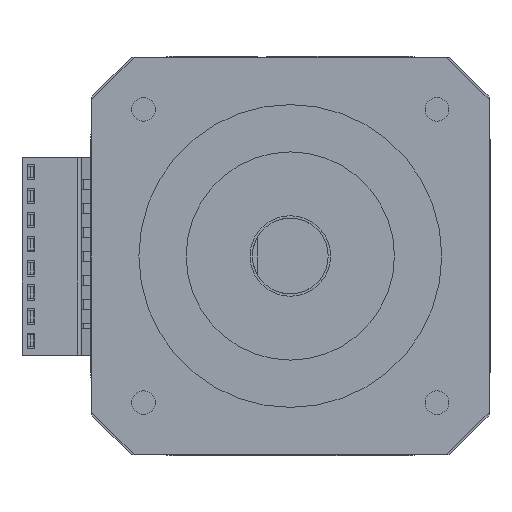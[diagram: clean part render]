
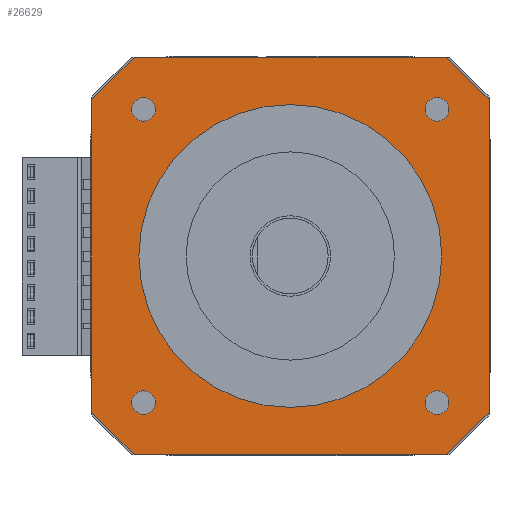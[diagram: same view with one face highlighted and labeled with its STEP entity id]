
A CAD part, front view. The second image highlights one B-rep face of the part: STEP entity #26629.
In plain terms, the highlighted planar face has unit normal (0, -1, 0).
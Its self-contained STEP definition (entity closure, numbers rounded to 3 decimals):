
#1387=DIRECTION('',(0.707,0.,-0.707));
#1388=VECTOR('',#1387,6.364);
#1389=CARTESIAN_POINT('',(37.5,11.,0.));
#1390=LINE('',#1389,#1388);
#1391=DIRECTION('',(0.,0.,-1.));
#1392=VECTOR('',#1391,33.);
#1393=CARTESIAN_POINT('',(42.,11.,-4.5));
#1394=LINE('',#1393,#1392);
#1395=DIRECTION('',(-0.707,0.,-0.707));
#1396=VECTOR('',#1395,6.364);
#1397=CARTESIAN_POINT('',(42.,11.,-37.5));
#1398=LINE('',#1397,#1396);
#1399=DIRECTION('',(-0.707,0.,0.707));
#1400=VECTOR('',#1399,6.364);
#1401=CARTESIAN_POINT('',(4.5,11.,-42.));
#1402=LINE('',#1401,#1400);
#1403=DIRECTION('',(0.707,0.,0.707));
#1404=VECTOR('',#1403,6.364);
#1405=CARTESIAN_POINT('',(0.,11.,-4.5));
#1406=LINE('',#1405,#1404);
#1407=CARTESIAN_POINT('',(5.5,11.,-36.5));
#1408=DIRECTION('',(0.,-1.,0.));
#1409=DIRECTION('',(-1.,0.,0.));
#1410=AXIS2_PLACEMENT_3D('',#1407,#1408,#1409);
#1412=CARTESIAN_POINT('',(5.5,11.,-36.5));
#1413=DIRECTION('',(0.,-1.,0.));
#1414=DIRECTION('',(1.,0.,0.));
#1415=AXIS2_PLACEMENT_3D('',#1412,#1413,#1414);
#1417=CARTESIAN_POINT('',(36.5,11.,-36.5));
#1418=DIRECTION('',(0.,-1.,0.));
#1419=DIRECTION('',(-1.,0.,0.));
#1420=AXIS2_PLACEMENT_3D('',#1417,#1418,#1419);
#1422=CARTESIAN_POINT('',(36.5,11.,-36.5));
#1423=DIRECTION('',(0.,-1.,0.));
#1424=DIRECTION('',(1.,0.,0.));
#1425=AXIS2_PLACEMENT_3D('',#1422,#1423,#1424);
#1427=CARTESIAN_POINT('',(5.5,11.,-5.5));
#1428=DIRECTION('',(0.,-1.,0.));
#1429=DIRECTION('',(-1.,0.,0.));
#1430=AXIS2_PLACEMENT_3D('',#1427,#1428,#1429);
#1432=CARTESIAN_POINT('',(5.5,11.,-5.5));
#1433=DIRECTION('',(0.,-1.,0.));
#1434=DIRECTION('',(1.,0.,0.));
#1435=AXIS2_PLACEMENT_3D('',#1432,#1433,#1434);
#1437=CARTESIAN_POINT('',(36.5,11.,-5.5));
#1438=DIRECTION('',(0.,-1.,0.));
#1439=DIRECTION('',(-1.,0.,0.));
#1440=AXIS2_PLACEMENT_3D('',#1437,#1438,#1439);
#1442=CARTESIAN_POINT('',(36.5,11.,-5.5));
#1443=DIRECTION('',(0.,-1.,0.));
#1444=DIRECTION('',(1.,0.,0.));
#1445=AXIS2_PLACEMENT_3D('',#1442,#1443,#1444);
#1447=CARTESIAN_POINT('',(21.,11.,-21.));
#1448=DIRECTION('',(0.,-1.,0.));
#1449=DIRECTION('',(-1.,0.,0.));
#1450=AXIS2_PLACEMENT_3D('',#1447,#1448,#1449);
#1452=CARTESIAN_POINT('',(21.,11.,-21.));
#1453=DIRECTION('',(0.,-1.,0.));
#1454=DIRECTION('',(1.,0.,0.));
#1455=AXIS2_PLACEMENT_3D('',#1452,#1453,#1454);
#1465=DIRECTION('',(-1.,0.,0.));
#1466=VECTOR('',#1465,33.);
#1467=CARTESIAN_POINT('',(37.5,11.,0.));
#1468=LINE('',#1467,#1466);
#7335=DIRECTION('',(0.,0.,-1.));
#7336=VECTOR('',#7335,33.);
#7337=CARTESIAN_POINT('',(0.,11.,-4.5));
#7338=LINE('',#7337,#7336);
#7355=DIRECTION('',(1.,0.,0.));
#7356=VECTOR('',#7355,33.);
#7357=CARTESIAN_POINT('',(4.5,11.,-42.));
#7358=LINE('',#7357,#7356);
#22332=CARTESIAN_POINT('',(42.,11.,-37.5));
#22334=VERTEX_POINT('',#22332);
#22340=CARTESIAN_POINT('',(42.,11.,-4.5));
#22341=VERTEX_POINT('',#22340);
#22342=CARTESIAN_POINT('',(37.5,11.,0.));
#22344=VERTEX_POINT('',#22342);
#22350=CARTESIAN_POINT('',(4.5,11.,0.));
#22351=VERTEX_POINT('',#22350);
#22354=CARTESIAN_POINT('',(0.,11.,-4.5));
#22355=VERTEX_POINT('',#22354);
#22362=CARTESIAN_POINT('',(0.,11.,-37.5));
#22363=VERTEX_POINT('',#22362);
#22366=CARTESIAN_POINT('',(4.5,11.,-42.));
#22367=VERTEX_POINT('',#22366);
#22374=CARTESIAN_POINT('',(37.5,11.,-42.));
#22375=VERTEX_POINT('',#22374);
#22376=CARTESIAN_POINT('',(6.75,11.,-36.5));
#22377=VERTEX_POINT('',#22376);
#22378=CARTESIAN_POINT('',(4.25,11.,-36.5));
#22379=VERTEX_POINT('',#22378);
#22380=CARTESIAN_POINT('',(37.75,11.,-36.5));
#22381=VERTEX_POINT('',#22380);
#22382=CARTESIAN_POINT('',(35.25,11.,-36.5));
#22383=VERTEX_POINT('',#22382);
#22384=CARTESIAN_POINT('',(6.75,11.,-5.5));
#22385=VERTEX_POINT('',#22384);
#22386=CARTESIAN_POINT('',(4.25,11.,-5.5));
#22387=VERTEX_POINT('',#22386);
#22388=CARTESIAN_POINT('',(37.75,11.,-5.5));
#22389=VERTEX_POINT('',#22388);
#22390=CARTESIAN_POINT('',(35.25,11.,-5.5));
#22391=VERTEX_POINT('',#22390);
#22393=CARTESIAN_POINT('',(37.,11.,-21.));
#22395=VERTEX_POINT('',#22393);
#22398=CARTESIAN_POINT('',(5.,11.,-21.));
#22399=VERTEX_POINT('',#22398);
#26578=CARTESIAN_POINT('',(21.,11.,-21.));
#26579=DIRECTION('',(0.,1.,0.));
#26580=DIRECTION('',(1.,0.,0.));
#26581=AXIS2_PLACEMENT_3D('',#26578,#26579,#26580);
#26582=PLANE('',#26581);
#26584=ORIENTED_EDGE('',*,*,#26583,.F.);
#26586=ORIENTED_EDGE('',*,*,#26585,.T.);
#26588=ORIENTED_EDGE('',*,*,#26587,.T.);
#26590=ORIENTED_EDGE('',*,*,#26589,.T.);
#26592=ORIENTED_EDGE('',*,*,#26591,.F.);
#26594=ORIENTED_EDGE('',*,*,#26593,.T.);
#26596=ORIENTED_EDGE('',*,*,#26595,.F.);
#26598=ORIENTED_EDGE('',*,*,#26597,.T.);
#26599=EDGE_LOOP('',(#26584,#26586,#26588,#26590,#26592,#26594,#26596,#26598));
#26600=FACE_OUTER_BOUND('',#26599,.F.);
#26602=ORIENTED_EDGE('',*,*,#26601,.T.);
#26604=ORIENTED_EDGE('',*,*,#26603,.T.);
#26605=EDGE_LOOP('',(#26602,#26604));
#26606=FACE_BOUND('',#26605,.F.);
#26608=ORIENTED_EDGE('',*,*,#26607,.T.);
#26610=ORIENTED_EDGE('',*,*,#26609,.T.);
#26611=EDGE_LOOP('',(#26608,#26610));
#26612=FACE_BOUND('',#26611,.F.);
#26614=ORIENTED_EDGE('',*,*,#26613,.T.);
#26616=ORIENTED_EDGE('',*,*,#26615,.T.);
#26617=EDGE_LOOP('',(#26614,#26616));
#26618=FACE_BOUND('',#26617,.F.);
#26620=ORIENTED_EDGE('',*,*,#26619,.T.);
#26622=ORIENTED_EDGE('',*,*,#26621,.T.);
#26623=EDGE_LOOP('',(#26620,#26622));
#26624=FACE_BOUND('',#26623,.F.);
#26625=ORIENTED_EDGE('',*,*,#26543,.T.);
#26626=ORIENTED_EDGE('',*,*,#26565,.T.);
#26627=EDGE_LOOP('',(#26625,#26626));
#26628=FACE_BOUND('',#26627,.F.);
#26629=ADVANCED_FACE('',(#26600,#26606,#26612,#26618,#26624,#26628),#26582,.F.);
#1411=CIRCLE('',#1410,1.25);
#1416=CIRCLE('',#1415,1.25);
#1421=CIRCLE('',#1420,1.25);
#1426=CIRCLE('',#1425,1.25);
#1431=CIRCLE('',#1430,1.25);
#1436=CIRCLE('',#1435,1.25);
#1441=CIRCLE('',#1440,1.25);
#1446=CIRCLE('',#1445,1.25);
#1451=CIRCLE('',#1450,16.);
#1456=CIRCLE('',#1455,16.);
#26543=EDGE_CURVE('',#22399,#22395,#1451,.T.);
#26565=EDGE_CURVE('',#22395,#22399,#1456,.T.);
#26583=EDGE_CURVE('',#22344,#22351,#1468,.T.);
#26585=EDGE_CURVE('',#22344,#22341,#1390,.T.);
#26587=EDGE_CURVE('',#22341,#22334,#1394,.T.);
#26589=EDGE_CURVE('',#22334,#22375,#1398,.T.);
#26591=EDGE_CURVE('',#22367,#22375,#7358,.T.);
#26593=EDGE_CURVE('',#22367,#22363,#1402,.T.);
#26595=EDGE_CURVE('',#22355,#22363,#7338,.T.);
#26597=EDGE_CURVE('',#22355,#22351,#1406,.T.);
#26601=EDGE_CURVE('',#22379,#22377,#1411,.T.);
#26603=EDGE_CURVE('',#22377,#22379,#1416,.T.);
#26607=EDGE_CURVE('',#22383,#22381,#1421,.T.);
#26609=EDGE_CURVE('',#22381,#22383,#1426,.T.);
#26613=EDGE_CURVE('',#22387,#22385,#1431,.T.);
#26615=EDGE_CURVE('',#22385,#22387,#1436,.T.);
#26619=EDGE_CURVE('',#22391,#22389,#1441,.T.);
#26621=EDGE_CURVE('',#22389,#22391,#1446,.T.);
